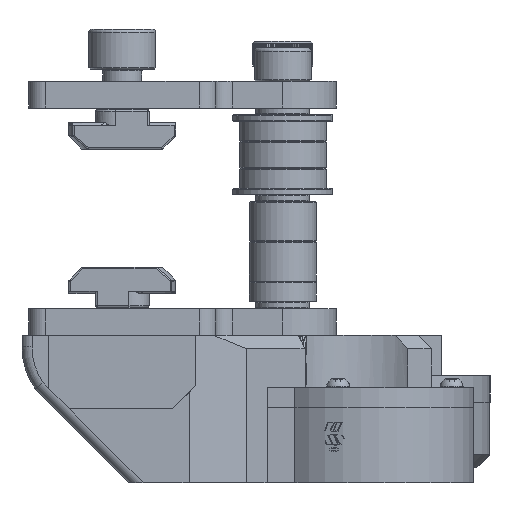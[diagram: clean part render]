
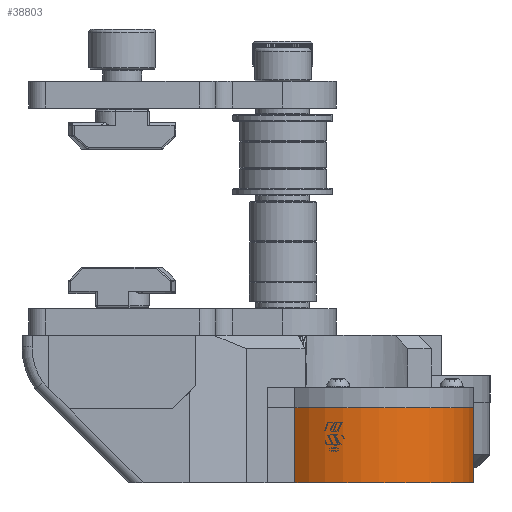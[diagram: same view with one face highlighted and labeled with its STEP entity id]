
A CAD part, left-side view. The second image highlights one B-rep face of the part: STEP entity #38803.
In plain terms, the highlighted cylindrical face has radius 16 mm (diameter 32 mm), a partial arc.
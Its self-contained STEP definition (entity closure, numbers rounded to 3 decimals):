
#2871=CYLINDRICAL_SURFACE('',#42568,16.);
#5455=FACE_OUTER_BOUND('',#7910,.T.);
#7910=EDGE_LOOP('',(#31556,#31557,#31558,#31559));
#10182=LINE('',#93082,#12698);
#10193=LINE('',#93114,#12709);
#12698=VECTOR('',#49493,10.);
#12709=VECTOR('',#49530,10.);
#15144=CIRCLE('',#42542,16.);
#15151=CIRCLE('',#42551,16.);
#18047=VERTEX_POINT('',#93033);
#18048=VERTEX_POINT('',#93035);
#18061=VERTEX_POINT('',#93065);
#18062=VERTEX_POINT('',#93067);
#22769=EDGE_CURVE('',#18047,#18048,#15144,.T.);
#22785=EDGE_CURVE('',#18062,#18061,#15151,.T.);
#22794=EDGE_CURVE('',#18048,#18061,#10182,.T.);
#22810=EDGE_CURVE('',#18062,#18047,#10193,.T.);
#31556=ORIENTED_EDGE('',*,*,#22785,.T.);
#31557=ORIENTED_EDGE('',*,*,#22794,.F.);
#31558=ORIENTED_EDGE('',*,*,#22769,.F.);
#31559=ORIENTED_EDGE('',*,*,#22810,.F.);
#38803=ADVANCED_FACE('',(#5455),#2871,.T.);
#42542=AXIS2_PLACEMENT_3D('',#93036,#49451,#49452);
#42551=AXIS2_PLACEMENT_3D('',#93068,#49478,#49479);
#42568=AXIS2_PLACEMENT_3D('',#93113,#49528,#49529);
#49451=DIRECTION('center_axis',(0.,0.,
-1.));
#49452=DIRECTION('ref_axis',(0.,-1.,0.));
#49478=DIRECTION('center_axis',(0.,0.,
-1.));
#49479=DIRECTION('ref_axis',(-0.707,0.707,0.));
#49493=DIRECTION('',(0.,0.,1.));
#49528=DIRECTION('center_axis',(0.,0.,
-1.));
#49529=DIRECTION('ref_axis',(-0.707,0.707,0.));
#49530=DIRECTION('',(0.,0.,-1.));
#93033=CARTESIAN_POINT('',(-224.046,-53.34,-2.25));
#93035=CARTESIAN_POINT('',(-199.416,-32.949,-2.25));
#93036=CARTESIAN_POINT('Origin',(-212.13,-42.663,-2.25));
#93065=CARTESIAN_POINT('',(-199.416,-32.949,9.));
#93067=CARTESIAN_POINT('',(-224.046,-53.34,9.));
#93068=CARTESIAN_POINT('Origin',(-212.13,-42.663,9.));
#93082=CARTESIAN_POINT('',(-199.416,-32.949,3.));
#93113=CARTESIAN_POINT('Origin',(-212.13,-42.663,3.));
#93114=CARTESIAN_POINT('',(-224.046,-53.34,-0.25));
